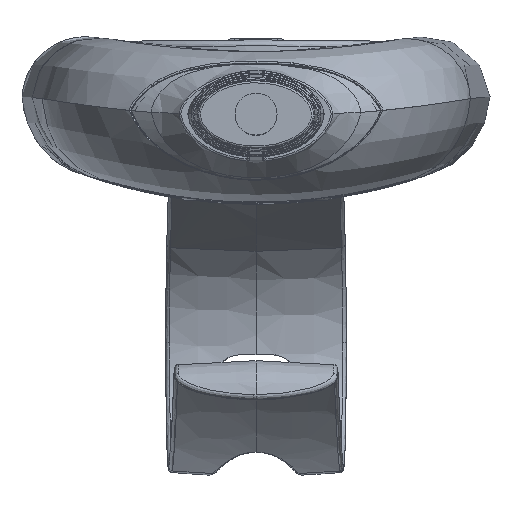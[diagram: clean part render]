
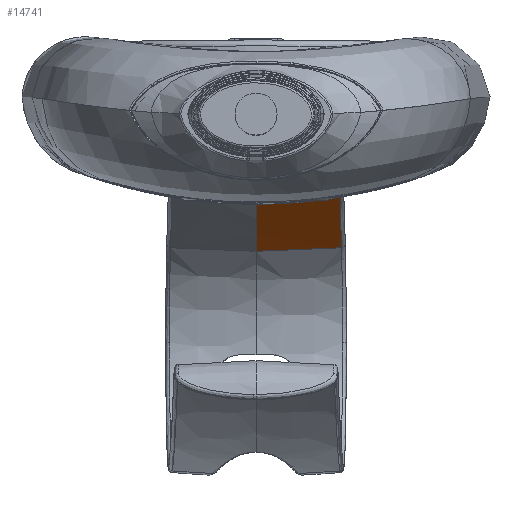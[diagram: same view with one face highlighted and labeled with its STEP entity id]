
A CAD part, top view. The second image highlights one B-rep face of the part: STEP entity #14741.
In plain terms, the highlighted conical face has half-angle 3 degrees and reference radius 79.369 mm.
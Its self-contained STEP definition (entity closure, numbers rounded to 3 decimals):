
#1677 = VERTEX_POINT ( 'NONE', #58907 ) ;
#2126 = CARTESIAN_POINT ( 'NONE',  ( 10.796, -8.494, -171.63 ) ) ;
#2354 = CARTESIAN_POINT ( 'NONE',  ( 10.734, -6.136, -168.692 ) ) ;
#2569 = CARTESIAN_POINT ( 'NONE',  ( 10.601, -2.069, -162.343 ) ) ;
#3090 = CARTESIAN_POINT ( 'NONE',  ( 8.858, -2.319, -162.586 ) ) ;
#5359 = DIRECTION ( 'NONE',  ( 0., 0., -1. ) ) ;
#7747 = CARTESIAN_POINT ( 'NONE',  ( 1.713, -2.96, -162.922 ) ) ;
#8499 = ORIENTED_EDGE ( 'NONE', *, *, #43282, .T. ) ;
#9033 = CARTESIAN_POINT ( 'NONE',  ( 0., -8.935, -171.276 ) ) ;
#9746 = VERTEX_POINT ( 'NONE', #54415 ) ;
#10136 = CIRCLE ( 'NONE', #53353, 78.8 ) ;
#10680 = VECTOR ( 'NONE', #33857, 1000. ) ;
#11407 = CARTESIAN_POINT ( 'NONE',  ( 10.601, -2.069, -162.343 ) ) ;
#11687 = CARTESIAN_POINT ( 'NONE',  ( 10.669, -3.987, -165.586 ) ) ;
#12009 = CARTESIAN_POINT ( 'NONE',  ( 6.871, -2.552, -162.77 ) ) ;
#14741 = ADVANCED_FACE ( 'NONE', ( #23896 ), #46417, .F. ) ;
#15109 = CARTESIAN_POINT ( 'NONE',  ( 0., -70.339, -121.889 ) ) ;
#22698 = VERTEX_POINT ( 'NONE', #9033 ) ;
#23896 = FACE_OUTER_BOUND ( 'NONE', #34932, .T. ) ;
#26756 = ORIENTED_EDGE ( 'NONE', *, *, #47672, .F. ) ;
#27382 = ORIENTED_EDGE ( 'NONE', *, *, #47112, .F. ) ;
#29725 = DIRECTION ( 'NONE',  ( 0., 0., -1. ) ) ;
#30061 = CARTESIAN_POINT ( 'NONE',  ( 5.422, -2.692, -162.855 ) ) ;
#30668 = CARTESIAN_POINT ( 'NONE',  ( 5.755, -2.662, -162.838 ) ) ;
#32978 = CARTESIAN_POINT ( 'NONE',  ( 10.86, -70.339, -121.889 ) ) ;
#33857 = DIRECTION ( 'NONE',  ( -0.999, -0.041, 0.033 ) ) ;
#34012 = VERTEX_POINT ( 'NONE', #2126 ) ;
#34179 = DIRECTION ( 'NONE',  ( 1., 0., 0. ) ) ;
#34725 = CARTESIAN_POINT ( 'NONE',  ( 5.532, -2.682, -162.85 ) ) ;
#34813 = CARTESIAN_POINT ( 'NONE',  ( 10.796, -8.494, -171.63 ) ) ;
#34932 = EDGE_LOOP ( 'NONE', ( #8499, #43969, #26756, #27382 ) ) ;
#35132 = EDGE_CURVE ( 'NONE', #22698, #1677, #10136, .T. ) ;
#35536 = CARTESIAN_POINT ( 'NONE',  ( 3.482, -2.863, -162.941 ) ) ;
#39585 = CARTESIAN_POINT ( 'NONE',  ( 7.535, -2.478, -162.715 ) ) ;
#41163 = LINE ( 'NONE', #56940, #10680 ) ;
#43282 = EDGE_CURVE ( 'NONE', #9746, #1677, #55299, .T. ) ;
#43827 = CARTESIAN_POINT ( 'NONE',  ( 0., -2.993, -162.804 ) ) ;
#43969 = ORIENTED_EDGE ( 'NONE', *, *, #35132, .F. ) ;
#44630 = CARTESIAN_POINT ( 'NONE',  ( 9.733, -2.201, -162.476 ) ) ;
#46417 = CONICAL_SURFACE ( 'NONE', #51243, 79.369, 0.052 ) ;
#47112 = EDGE_CURVE ( 'NONE', #9746, #34012, #55641, .T. ) ;
#47307 = DIRECTION ( 'NONE',  ( 1., 0., 0. ) ) ;
#47672 = EDGE_CURVE ( 'NONE', #34012, #22698, #41163, .T. ) ;
#51243 = AXIS2_PLACEMENT_3D ( 'NONE', #32978, #34179, #29725 ) ;
#53353 = AXIS2_PLACEMENT_3D ( 'NONE', #15109, #47307, #5359 ) ;
#53943 = CARTESIAN_POINT ( 'NONE',  ( 6.091, -2.63, -162.82 ) ) ;
#54415 = CARTESIAN_POINT ( 'NONE',  ( 10.601, -2.069, -162.343 ) ) ;
#55299 = B_SPLINE_CURVE_WITH_KNOTS ( 'NONE', 3,
 ( #11407, #44630, #3090, #39585, #12009, #53943, #30668, #34725, #30061, #35536, #7747, #43827 ),
 .UNSPECIFIED., .F., .F.,
 ( 4, 2, 1, 1, 2, 2, 4 ),
 ( 0., 0.25, 0.375, 0.437, 0.469, 0.5, 1. ),
 .UNSPECIFIED. ) ;
#55641 = B_SPLINE_CURVE_WITH_KNOTS ( 'NONE', 3,
 ( #2569, #11687, #2354, #34813 ),
 .UNSPECIFIED., .F., .F.,
 ( 4, 4 ),
 ( 0., 1. ),
 .UNSPECIFIED. ) ;
#56940 = CARTESIAN_POINT ( 'NONE',  ( 10.86, -8.492, -171.632 ) ) ;
#58907 = CARTESIAN_POINT ( 'NONE',  ( 0., -2.993, -162.804 ) ) ;
